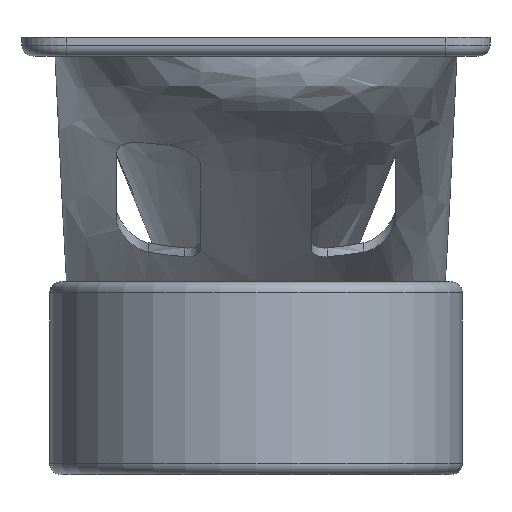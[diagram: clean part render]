
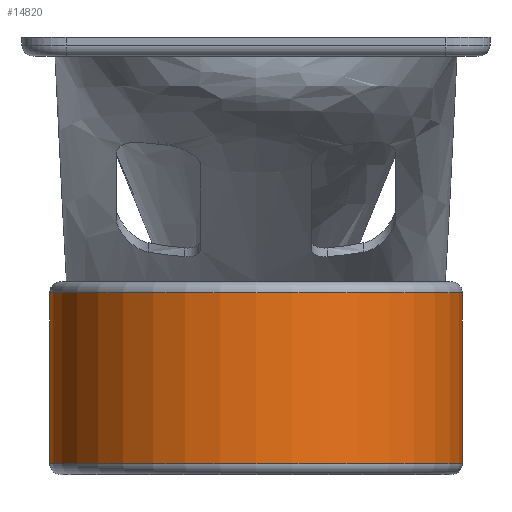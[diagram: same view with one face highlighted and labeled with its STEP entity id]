
A CAD part, front view. The second image highlights one B-rep face of the part: STEP entity #14820.
In plain terms, the highlighted cylindrical face has radius 18.75 mm (diameter 37.5 mm), a full revolution.
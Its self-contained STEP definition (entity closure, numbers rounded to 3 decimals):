
#1005 = CARTESIAN_POINT ( 'NONE',  ( 18.75, 0., -21.5 ) ) ;
#1122 = DIRECTION ( 'NONE',  ( 0., 0., 1. ) ) ;
#1451 = EDGE_CURVE ( 'NONE', #17128, #17128, #2804, .T. ) ;
#1844 = AXIS2_PLACEMENT_3D ( 'NONE', #16230, #2936, #8348 ) ;
#2415 = DIRECTION ( 'NONE',  ( 1., 0., 0. ) ) ;
#2432 = AXIS2_PLACEMENT_3D ( 'NONE', #12102, #7729, #2415 ) ;
#2804 = CIRCLE ( 'NONE', #15265, 18.75 ) ;
#2936 = DIRECTION ( 'NONE',  ( 0., 0., -1. ) ) ;
#3104 = ORIENTED_EDGE ( 'NONE', *, *, #6025, .T. ) ;
#4886 = ORIENTED_EDGE ( 'NONE', *, *, #1451, .T. ) ;
#6025 = EDGE_CURVE ( 'NONE', #11504, #11504, #9535, .T. ) ;
#6529 = DIRECTION ( 'NONE',  ( 1., 0., 0. ) ) ;
#7004 = CYLINDRICAL_SURFACE ( 'NONE', #1844, 18.75 ) ;
#7729 = DIRECTION ( 'NONE',  ( 0., 0., -1. ) ) ;
#8348 = DIRECTION ( 'NONE',  ( -1., 0., 0. ) ) ;
#9535 = CIRCLE ( 'NONE', #2432, 18.75 ) ;
#9597 = FACE_OUTER_BOUND ( 'NONE', #15544, .T. ) ;
#10431 = CARTESIAN_POINT ( 'NONE',  ( 18.75, 0., -37. ) ) ;
#10769 = EDGE_LOOP ( 'NONE', ( #4886 ) ) ;
#11504 = VERTEX_POINT ( 'NONE', #1005 ) ;
#12102 = CARTESIAN_POINT ( 'NONE',  ( 0., 0., -21.5 ) ) ;
#13770 = FACE_OUTER_BOUND ( 'NONE', #10769, .T. ) ;
#14820 = ADVANCED_FACE ( 'NONE', ( #9597, #13770 ), #7004, .T. ) ;
#15265 = AXIS2_PLACEMENT_3D ( 'NONE', #17153, #1122, #6529 ) ;
#15544 = EDGE_LOOP ( 'NONE', ( #3104 ) ) ;
#16230 = CARTESIAN_POINT ( 'NONE',  ( 0., 0., -20.5 ) ) ;
#17128 = VERTEX_POINT ( 'NONE', #10431 ) ;
#17153 = CARTESIAN_POINT ( 'NONE',  ( 0., 0., -37. ) ) ;
